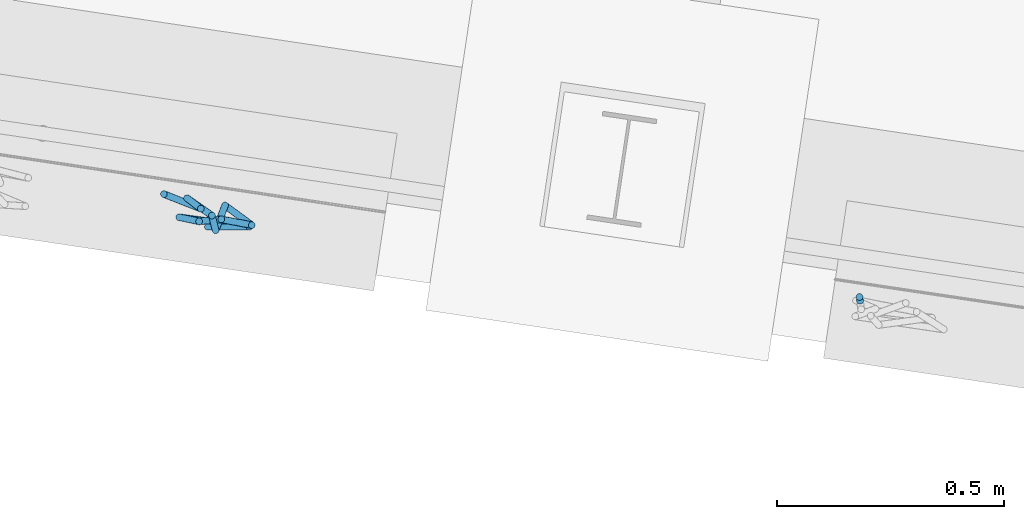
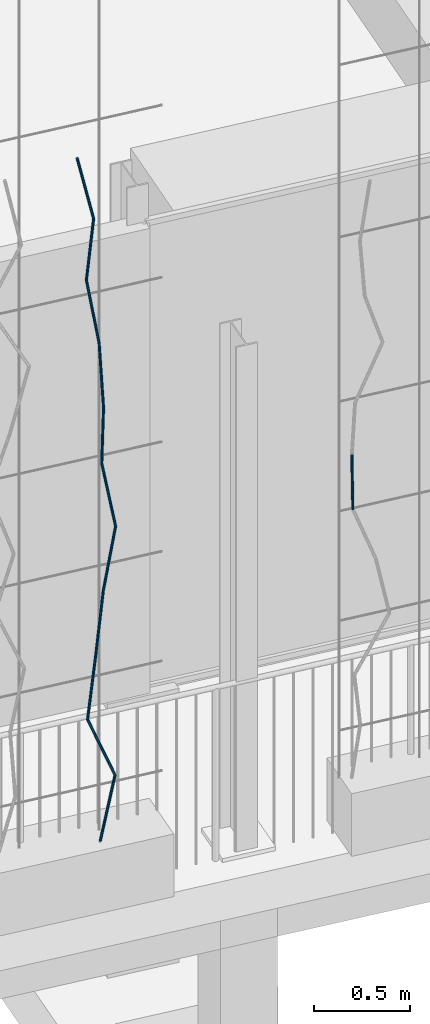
# One storey, part 118 of 142: 12 members, 1 element without a shape of its own.
"""IFC4 building model written with IfcOpenShell, lengths in metres."""

from ifc_helpers import new_model, si_unit, direction, frame, origin_with_axes, place, context, subcontext, project, spatial, circle, extrude, material, material_profile, profile_set, profile_usage, type_object, element, aggregate, save


model = new_model("IFC4")

# Units and contexts
model_context = context("Model", 3, precision=1e-05, world=origin_with_axes(), true_north=direction((0.0, 1.0)))
body_context = subcontext(model_context, "Body", "Model", "MODEL_VIEW")
ifc_project = project(units=[si_unit("AREAUNIT", "SQUARE_METRE"), si_unit("VOLUMEUNIT", "CUBIC_METRE"), si_unit("LENGTHUNIT", "METRE")], contexts=[model_context])

# Site, building, storey
site_placement = place(None, origin_with_axes())
site = spatial("IfcSite", under=ifc_project, at=site_placement, Name="Lares · Rua das Mercês · artigo 4771")
building_placement = place(site_placement, frame((15.0, 9.7, 14.65), z_axis=(0.0, 0.0, 1.0), x_axis=(0.989015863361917, -0.147809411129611, 0.0)))
building = spatial("IfcBuilding", under=site, at=building_placement, Name="Casa Sobreposta")
storey_placement = place(building_placement, origin_with_axes())
storey = spatial("IfcBuildingStorey", under=building, at=storey_placement, Name="00 · Habitação e estacionamento", Elevation=14.65)

# Assembly, members
assembly_placement = place(storey_placement, origin_with_axes())
assembly = element("IfcElementAssembly", 1, at=assembly_placement, inside=storey, Name="Fachada sul e pátio · estrutura e trepadeiras", ObjectType="LIVING_SHADE_TRELLIS", PredefinedType="USERDEFINED")
ifc_material = material(Name="Ramos de trepadeiras", Category="wood")
ifc_material_profile = material_profile(ifc_material, circle(Radius=0.0075))
ifc_profile_set = profile_set([ifc_material_profile], Name="D0.015")
ifc_profile_usage_1 = profile_usage(ifc_profile_set)
member_type = type_object("IfcMemberType", Name="D0.015 / vine_wood", PredefinedType="NOTDEFINED", material=ifc_profile_set)
member_1_placement = place(assembly_placement, frame((3.11885066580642, -1.69940547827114, 0.35), z_axis=(0.221094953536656, 0.0328171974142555, 0.974699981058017), x_axis=(0.146821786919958, -0.989162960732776, 0.0)))
member_1 = element("IfcMember", 2, at=member_1_placement, type_object=member_type, material=ifc_profile_usage_1, Name="Trepadeiras · ramo", context=body_context, shape_type="SweptSolid", body=[
    extrude(circle(Radius=0.0075), origin_with_axes(), (0.0, 0.0, 1.0), 0.406595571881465),
])
ifc_profile_usage_2 = profile_usage(ifc_profile_set)
member_2_placement = place(assembly_placement, frame((3.20874689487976, -1.68606215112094, 0.746308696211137), z_axis=(-0.364780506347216, -0.00430387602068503, 0.931083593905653), x_axis=(-0.0117977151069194, 0.999930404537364, 0.0)))
member_2 = element("IfcMember", 3, at=member_2_placement, type_object=member_type, material=ifc_profile_usage_2, Name="Trepadeiras · ramo", context=body_context, shape_type="SweptSolid", body=[
    extrude(circle(Radius=0.0075), origin_with_axes(), (0.0, 0.0, 1.0), 0.425642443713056),
])
ifc_profile_usage_3 = profile_usage(ifc_profile_set)
member_3_placement = place(assembly_placement, frame((3.05348082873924, -1.68789406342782, 1.14261739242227), z_axis=(0.111382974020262, -0.0066718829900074, 0.993755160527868), x_axis=(-0.0597932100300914, -0.998210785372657, 0.0)))
member_3 = element("IfcMember", 4, at=member_3_placement, type_object=member_type, material=ifc_profile_usage_3, Name="Trepadeiras · ramo", context=body_context, shape_type="SweptSolid", body=[
    extrude(circle(Radius=0.0075), origin_with_axes(), (0.0, 0.0, 1.0), 0.398799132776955),
])
ifc_profile_usage_4 = profile_usage(ifc_profile_set)
member_4_placement = place(assembly_placement, frame((3.09790026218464, -1.69055480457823, 1.53892608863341), z_axis=(0.119326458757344, 0.0294826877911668, 0.992417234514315), x_axis=(0.239862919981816, -0.970806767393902, 0.0)))
member_4 = element("IfcMember", 5, at=member_4_placement, type_object=member_type, material=ifc_profile_usage_4, Name="Trepadeiras · ramo", context=body_context, shape_type="SweptSolid", body=[
    extrude(circle(Radius=0.0075), origin_with_axes(), (0.0, 0.0, 1.0), 0.39933677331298),
])
ifc_profile_usage_5 = profile_usage(ifc_profile_set)
member_5_placement = place(assembly_placement, frame((3.14555170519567, -1.67878128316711, 1.93523478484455), z_axis=(0.169501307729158, -0.00686405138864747, 0.98550605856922), x_axis=(-0.0404624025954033, -0.9991810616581, 0.0)))
member_5 = element("IfcMember", 6, at=member_5_placement, type_object=member_type, material=ifc_profile_usage_5, Name="Trepadeiras · ramo", context=body_context, shape_type="SweptSolid", body=[
    extrude(circle(Radius=0.0075), origin_with_axes(), (0.0, 0.0, 1.0), 0.40213724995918),
])
ifc_profile_usage_6 = profile_usage(ifc_profile_set)
member_6_placement = place(assembly_placement, frame((3.21371449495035, -1.68154157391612, 2.33154348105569), z_axis=(-0.160243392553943, 0.0841787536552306, 0.983481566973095), x_axis=(0.46505464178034, 0.885281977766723, 0.0)))
member_6 = element("IfcMember", 7, at=member_6_placement, type_object=member_type, material=ifc_profile_usage_6, Name="Trepadeiras · ramo", context=body_context, shape_type="SweptSolid", body=[
    extrude(circle(Radius=0.0075), origin_with_axes(), (0.0, 0.0, 1.0), 0.402965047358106),
])
ifc_profile_usage_7 = profile_usage(ifc_profile_set)
member_7_placement = place(assembly_placement, frame((3.14914200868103, -1.64762047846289, 2.72785217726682), z_axis=(-0.0310480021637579, -0.142038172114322, 0.989374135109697), x_axis=(-0.976932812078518, 0.213546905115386, 5.90228850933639e-18)))
member_7 = element("IfcMember", 8, at=member_7_placement, type_object=member_type, material=ifc_profile_usage_7, Name="Trepadeiras · ramo", context=body_context, shape_type="SweptSolid", body=[
    extrude(circle(Radius=0.0075), origin_with_axes(), (0.0, 0.0, 1.0), 0.400565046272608),
])
ifc_profile_usage_8 = profile_usage(ifc_profile_set)
member_8_placement = place(assembly_placement, frame((3.13670526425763, -1.70451600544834, 3.12416087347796), z_axis=(-0.0320025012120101, 0.0772922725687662, 0.996494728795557), x_axis=(0.92393449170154, 0.382550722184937, 0.0)))
member_8 = element("IfcMember", 9, at=member_8_placement, type_object=member_type, material=ifc_profile_usage_8, Name="Trepadeiras · ramo", context=body_context, shape_type="SweptSolid", body=[
    extrude(circle(Radius=0.0075), origin_with_axes(), (0.0, 0.0, 1.0), 0.397702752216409),
])
ifc_profile_usage_9 = profile_usage(ifc_profile_set)
member_9_placement = place(assembly_placement, frame((3.12397778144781, -1.67377665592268, 3.5204695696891), z_axis=(-0.148642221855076, 0.0741828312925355, 0.986104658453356), x_axis=(0.446547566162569, 0.894759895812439, 0.0)))
member_9 = element("IfcMember", 10, at=member_9_placement, type_object=member_type, material=ifc_profile_usage_9, Name="Trepadeiras · ramo", context=body_context, shape_type="SweptSolid", body=[
    extrude(circle(Radius=0.0075), origin_with_axes(), (0.0, 0.0, 1.0), 0.401893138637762),
])
ifc_profile_usage_10 = profile_usage(ifc_profile_set)
member_10_placement = place(assembly_placement, frame((3.06423949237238, -1.64396308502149, 3.91677826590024), z_axis=(0.0840190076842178, -0.0460473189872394, 0.995399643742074), x_axis=(-0.480610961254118, -0.876933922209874, 0.0)))
member_10 = element("IfcMember", 11, at=member_10_placement, type_object=member_type, material=ifc_profile_usage_10, Name="Trepadeiras · ramo", context=body_context, shape_type="SweptSolid", body=[
    extrude(circle(Radius=0.0075), origin_with_axes(), (0.0, 0.0, 1.0), 0.398140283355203),
])
ifc_profile_usage_11 = profile_usage(ifc_profile_set)
member_11_placement = place(assembly_placement, frame((3.097690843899, -1.66229637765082, 4.31308696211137), z_axis=(-0.209774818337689, 0.0484325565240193, 0.976549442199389), x_axis=(0.224960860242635, 0.974367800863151, 0.0)))
member_11 = element("IfcMember", 12, at=member_11_placement, type_object=member_type, material=ifc_profile_usage_11, Name="Trepadeiras · ramo", context=body_context, shape_type="SweptSolid", body=[
    extrude(circle(Radius=0.0075), origin_with_axes(), (0.0, 0.0, 1.0), 0.405825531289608),
])
ifc_profile_usage_12 = profile_usage(ifc_profile_set)
member_12_placement = place(assembly_placement, frame((4.56069122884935, -1.64835584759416, 2.07350700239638), z_axis=(-0.00681256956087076, 0.0235166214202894, 0.999700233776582), x_axis=(0.999976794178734, 0.000160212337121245, 0.00681068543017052)))
member_12 = element("IfcMember", 13, at=member_12_placement, type_object=member_type, material=ifc_profile_usage_12, Name="Trepadeiras · ramo", context=body_context, shape_type="SweptSolid", body=[
    extrude(circle(Radius=0.0075), origin_with_axes(), (0.0, 0.0, 1.0), 0.344804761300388),
])
aggregate(assembly, [member_1, member_2, member_3, member_4, member_5, member_6, member_7, member_8, member_9, member_10, member_11, member_12])

save(model, "model.ifc")
